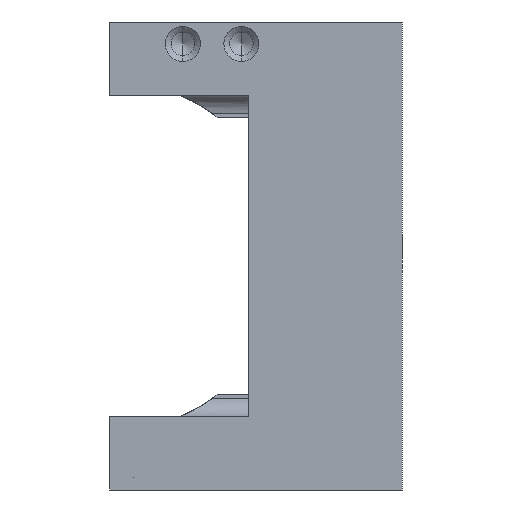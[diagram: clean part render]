
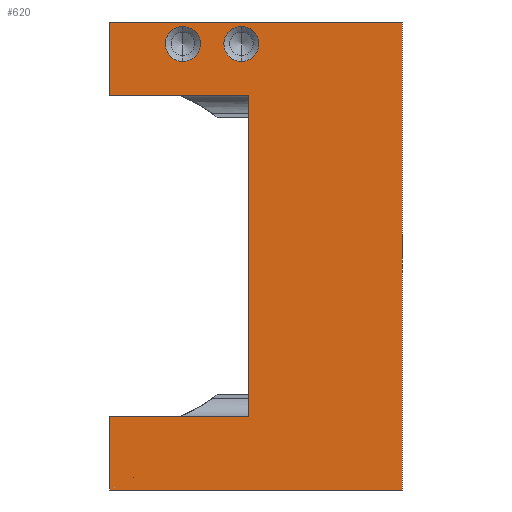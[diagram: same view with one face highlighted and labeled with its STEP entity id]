
A CAD part, left-side view. The second image highlights one B-rep face of the part: STEP entity #620.
In plain terms, the highlighted planar face has unit normal (-1, 0, 0).
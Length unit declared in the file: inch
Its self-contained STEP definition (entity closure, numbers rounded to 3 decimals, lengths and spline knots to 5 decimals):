
#35 = DIRECTION ( 'NONE',  ( 0., -1., 0. ) ) ;
#144 = EDGE_CURVE ( 'NONE', #2828, #2448, #723, .T. ) ;
#203 = DIRECTION ( 'NONE',  ( 0., 0., 1. ) ) ;
#337 = CARTESIAN_POINT ( 'NONE',  ( -5.119, 1.875, 1.9625 ) ) ;
#355 = CARTESIAN_POINT ( 'NONE',  ( -5.119, 0., -2. ) ) ;
#542 = VECTOR ( 'NONE', #742, 39.37008 ) ;
#547 = CIRCLE ( 'NONE', #3577, 0.15 ) ;
#590 = EDGE_CURVE ( 'NONE', #2707, #1070, #717, .T. ) ;
#620 = ADVANCED_FACE ( 'NONE', ( #2719, #2845, #1664 ), #626, .F. ) ;
#626 = PLANE ( 'NONE',  #1670 ) ;
#642 = CARTESIAN_POINT ( 'NONE',  ( -5.119, 2.5, 2. ) ) ;
#643 = ORIENTED_EDGE ( 'NONE', *, *, #3879, .F. ) ;
#675 = LINE ( 'NONE', #3392, #542 ) ;
#708 = DIRECTION ( 'NONE',  ( -1., 0., 0. ) ) ;
#717 = CIRCLE ( 'NONE', #2333, 0.15 ) ;
#723 = LINE ( 'NONE', #2503, #4939 ) ;
#742 = DIRECTION ( 'NONE',  ( 0., -1., 0. ) ) ;
#755 = VERTEX_POINT ( 'NONE', #4812 ) ;
#763 = ORIENTED_EDGE ( 'NONE', *, *, #2999, .F. ) ;
#771 = EDGE_CURVE ( 'NONE', #4139, #2448, #910, .T. ) ;
#870 = VECTOR ( 'NONE', #4580, 39.37008 ) ;
#905 = CARTESIAN_POINT ( 'NONE',  ( -5.119, 1.3125, -1.375 ) ) ;
#910 = LINE ( 'NONE', #1538, #5121 ) ;
#931 = ORIENTED_EDGE ( 'NONE', *, *, #144, .T. ) ;
#941 = VERTEX_POINT ( 'NONE', #2021 ) ;
#1001 = LINE ( 'NONE', #2196, #870 ) ;
#1070 = VERTEX_POINT ( 'NONE', #2631 ) ;
#1137 = EDGE_CURVE ( 'NONE', #4962, #2729, #1001, .T. ) ;
#1165 = ORIENTED_EDGE ( 'NONE', *, *, #771, .F. ) ;
#1215 = CARTESIAN_POINT ( 'NONE',  ( -5.119, 1.375, 1.8125 ) ) ;
#1218 = ORIENTED_EDGE ( 'NONE', *, *, #5149, .F. ) ;
#1239 = CARTESIAN_POINT ( 'NONE',  ( -5.119, 0., 2. ) ) ;
#1271 = CARTESIAN_POINT ( 'NONE',  ( -5.119, 2.5, 2. ) ) ;
#1357 = EDGE_CURVE ( 'NONE', #4139, #4962, #1990, .T. ) ;
#1462 = CARTESIAN_POINT ( 'NONE',  ( -5.119, 2.5, -2. ) ) ;
#1537 = LINE ( 'NONE', #2123, #3308 ) ;
#1538 = CARTESIAN_POINT ( 'NONE',  ( -5.119, 2.5, 2. ) ) ;
#1621 = DIRECTION ( 'NONE',  ( 0., 0., 1. ) ) ;
#1657 = VERTEX_POINT ( 'NONE', #337 ) ;
#1664 = FACE_OUTER_BOUND ( 'NONE', #5299, .T. ) ;
#1670 = AXIS2_PLACEMENT_3D ( 'NONE', #642, #3477, #3053 ) ;
#1849 = EDGE_CURVE ( 'NONE', #3613, #2729, #675, .T. ) ;
#1990 = LINE ( 'NONE', #1462, #5143 ) ;
#2021 = CARTESIAN_POINT ( 'NONE',  ( -5.119, 2.5, 1.375 ) ) ;
#2109 = EDGE_LOOP ( 'NONE', ( #643, #4272 ) ) ;
#2123 = CARTESIAN_POINT ( 'NONE',  ( -5.119, 1.3125, -1.375 ) ) ;
#2141 = AXIS2_PLACEMENT_3D ( 'NONE', #3882, #708, #4850 ) ;
#2192 = DIRECTION ( 'NONE',  ( -1., 0., 0. ) ) ;
#2196 = CARTESIAN_POINT ( 'NONE',  ( -5.119, 0., 2. ) ) ;
#2211 = CARTESIAN_POINT ( 'NONE',  ( -5.119, 1.375, 1.8125 ) ) ;
#2303 = EDGE_CURVE ( 'NONE', #1657, #3759, #4753, .T. ) ;
#2333 = AXIS2_PLACEMENT_3D ( 'NONE', #2211, #5097, #203 ) ;
#2448 = VERTEX_POINT ( 'NONE', #4170 ) ;
#2494 = LINE ( 'NONE', #3727, #3471 ) ;
#2503 = CARTESIAN_POINT ( 'NONE',  ( -5.119, 1.3125, -1.375 ) ) ;
#2589 = CARTESIAN_POINT ( 'NONE',  ( -5.119, 2.5, -2. ) ) ;
#2631 = CARTESIAN_POINT ( 'NONE',  ( -5.119, 1.375, 1.9625 ) ) ;
#2707 = VERTEX_POINT ( 'NONE', #3654 ) ;
#2719 = FACE_BOUND ( 'NONE', #2769, .T. ) ;
#2729 = VERTEX_POINT ( 'NONE', #1239 ) ;
#2769 = EDGE_LOOP ( 'NONE', ( #4425, #763 ) ) ;
#2812 = EDGE_CURVE ( 'NONE', #755, #941, #2494, .T. ) ;
#2828 = VERTEX_POINT ( 'NONE', #905 ) ;
#2845 = FACE_BOUND ( 'NONE', #2109, .T. ) ;
#2999 = EDGE_CURVE ( 'NONE', #3759, #1657, #547, .T. ) ;
#3011 = CARTESIAN_POINT ( 'NONE',  ( -5.119, 2.5, 2. ) ) ;
#3053 = DIRECTION ( 'NONE',  ( 0., 0., -1. ) ) ;
#3308 = VECTOR ( 'NONE', #3396, 39.37008 ) ;
#3392 = CARTESIAN_POINT ( 'NONE',  ( -5.119, 2.5, 2. ) ) ;
#3396 = DIRECTION ( 'NONE',  ( 0., 0., 1. ) ) ;
#3452 = EDGE_CURVE ( 'NONE', #941, #3613, #4626, .T. ) ;
#3453 = ORIENTED_EDGE ( 'NONE', *, *, #1357, .T. ) ;
#3471 = VECTOR ( 'NONE', #4971, 39.37008 ) ;
#3477 = DIRECTION ( 'NONE',  ( 1., 0., 0. ) ) ;
#3520 = VECTOR ( 'NONE', #3701, 39.37008 ) ;
#3549 = AXIS2_PLACEMENT_3D ( 'NONE', #1215, #4062, #1621 ) ;
#3577 = AXIS2_PLACEMENT_3D ( 'NONE', #4668, #2192, #5076 ) ;
#3613 = VERTEX_POINT ( 'NONE', #3011 ) ;
#3621 = ORIENTED_EDGE ( 'NONE', *, *, #1137, .T. ) ;
#3643 = CIRCLE ( 'NONE', #3549, 0.15 ) ;
#3654 = CARTESIAN_POINT ( 'NONE',  ( -5.119, 1.375, 1.6625 ) ) ;
#3701 = DIRECTION ( 'NONE',  ( 0., 0., 1. ) ) ;
#3727 = CARTESIAN_POINT ( 'NONE',  ( -5.119, 1.3125, 1.375 ) ) ;
#3759 = VERTEX_POINT ( 'NONE', #3904 ) ;
#3879 = EDGE_CURVE ( 'NONE', #1070, #2707, #3643, .T. ) ;
#3882 = CARTESIAN_POINT ( 'NONE',  ( -5.119, 1.875, 1.8125 ) ) ;
#3904 = CARTESIAN_POINT ( 'NONE',  ( -5.119, 1.875, 1.6625 ) ) ;
#4062 = DIRECTION ( 'NONE',  ( -1., 0., 0. ) ) ;
#4102 = ORIENTED_EDGE ( 'NONE', *, *, #1849, .F. ) ;
#4139 = VERTEX_POINT ( 'NONE', #2589 ) ;
#4170 = CARTESIAN_POINT ( 'NONE',  ( -5.119, 2.5, -1.375 ) ) ;
#4272 = ORIENTED_EDGE ( 'NONE', *, *, #590, .F. ) ;
#4403 = DIRECTION ( 'NONE',  ( 0., 0., 1. ) ) ;
#4425 = ORIENTED_EDGE ( 'NONE', *, *, #2303, .F. ) ;
#4580 = DIRECTION ( 'NONE',  ( 0., 0., 1. ) ) ;
#4626 = LINE ( 'NONE', #1271, #3520 ) ;
#4668 = CARTESIAN_POINT ( 'NONE',  ( -5.119, 1.875, 1.8125 ) ) ;
#4753 = CIRCLE ( 'NONE', #2141, 0.15 ) ;
#4812 = CARTESIAN_POINT ( 'NONE',  ( -5.119, 1.3125, 1.375 ) ) ;
#4850 = DIRECTION ( 'NONE',  ( 0., 0., 1. ) ) ;
#4939 = VECTOR ( 'NONE', #4984, 39.37008 ) ;
#4962 = VERTEX_POINT ( 'NONE', #355 ) ;
#4971 = DIRECTION ( 'NONE',  ( 0., 1., 0. ) ) ;
#4984 = DIRECTION ( 'NONE',  ( 0., 1., 0. ) ) ;
#5076 = DIRECTION ( 'NONE',  ( 0., 0., 1. ) ) ;
#5097 = DIRECTION ( 'NONE',  ( -1., 0., 0. ) ) ;
#5121 = VECTOR ( 'NONE', #4403, 39.37008 ) ;
#5133 = ORIENTED_EDGE ( 'NONE', *, *, #3452, .F. ) ;
#5143 = VECTOR ( 'NONE', #35, 39.37008 ) ;
#5149 = EDGE_CURVE ( 'NONE', #2828, #755, #1537, .T. ) ;
#5234 = ORIENTED_EDGE ( 'NONE', *, *, #2812, .F. ) ;
#5299 = EDGE_LOOP ( 'NONE', ( #1218, #931, #1165, #3453, #3621, #4102, #5133, #5234 ) ) ;
